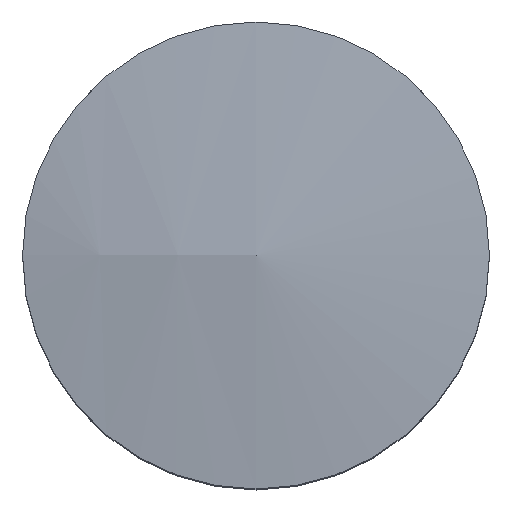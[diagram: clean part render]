
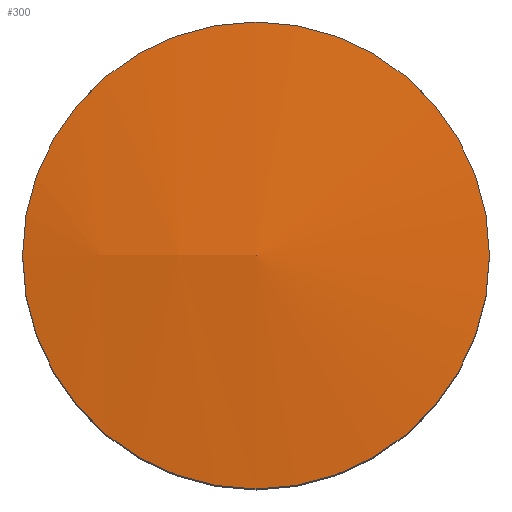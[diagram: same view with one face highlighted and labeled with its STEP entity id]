
A CAD part, top view. The second image highlights one B-rep face of the part: STEP entity #300.
In plain terms, the highlighted spherical face has radius 22.965 mm.
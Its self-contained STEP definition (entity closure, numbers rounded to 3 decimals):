
#20=SPHERICAL_SURFACE('',#349,22.965);
#59=FACE_OUTER_BOUND('',#83,.T.);
#83=EDGE_LOOP('',(#238,#239,#240,#241));
#115=CIRCLE('',#350,4.);
#116=CIRCLE('',#351,4.);
#117=CIRCLE('',#352,22.965);
#149=VERTEX_POINT('',#531);
#150=VERTEX_POINT('',#532);
#151=VERTEX_POINT('',#535);
#182=EDGE_CURVE('',#149,#150,#115,.T.);
#183=EDGE_CURVE('',#150,#149,#116,.T.);
#184=EDGE_CURVE('',#151,#150,#117,.T.);
#238=ORIENTED_EDGE('',*,*,#182,.F.);
#239=ORIENTED_EDGE('',*,*,#183,.F.);
#240=ORIENTED_EDGE('',*,*,#184,.F.);
#241=ORIENTED_EDGE('',*,*,#184,.T.);
#300=ADVANCED_FACE('',(#59),#20,.T.);
#349=AXIS2_PLACEMENT_3D('',#530,#428,#429);
#350=AXIS2_PLACEMENT_3D('',#533,#430,#431);
#351=AXIS2_PLACEMENT_3D('',#534,#432,#433);
#352=AXIS2_PLACEMENT_3D('',#536,#434,#435);
#428=DIRECTION('center_axis',(0.,0.,1.));
#429=DIRECTION('ref_axis',(1.,0.,0.));
#430=DIRECTION('center_axis',(0.,0.,-1.));
#431=DIRECTION('ref_axis',(1.,0.,0.));
#432=DIRECTION('center_axis',(0.,0.,-1.));
#433=DIRECTION('ref_axis',(1.,0.,0.));
#434=DIRECTION('center_axis',(0.,-1.,0.));
#435=DIRECTION('ref_axis',(-1.,0.,0.));
#530=CARTESIAN_POINT('Origin',(138.407,70.353,45.763));
#531=CARTESIAN_POINT('',(138.407,74.353,68.376));
#532=CARTESIAN_POINT('',(134.407,70.353,68.376));
#533=CARTESIAN_POINT('Origin',(138.407,70.353,68.376));
#534=CARTESIAN_POINT('Origin',(138.407,70.353,68.376));
#535=CARTESIAN_POINT('',(138.407,70.353,68.727));
#536=CARTESIAN_POINT('Origin',(138.407,70.353,45.763));
